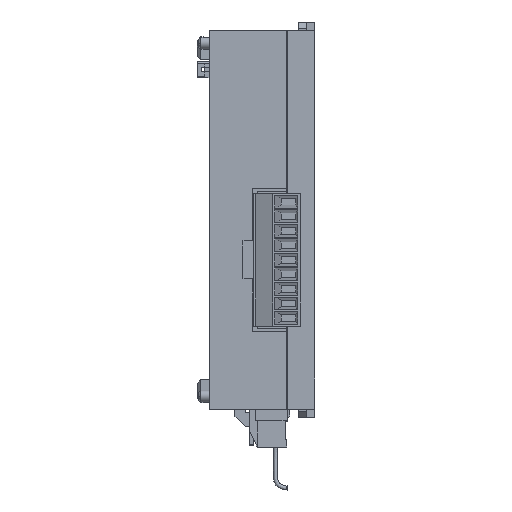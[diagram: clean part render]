
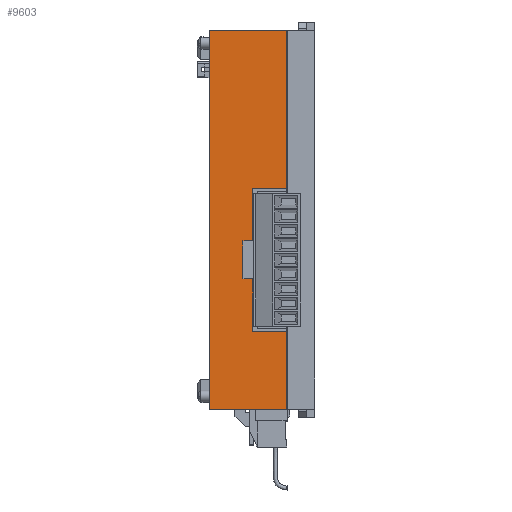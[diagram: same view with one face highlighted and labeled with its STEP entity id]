
A CAD part, top view. The second image highlights one B-rep face of the part: STEP entity #9603.
In plain terms, the highlighted planar face has unit normal (0, 0, 1).
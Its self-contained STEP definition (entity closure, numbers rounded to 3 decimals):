
#7814 = VERTEX_POINT ( 'NONE', #24300 ) ;
#7816 = EDGE_CURVE ( 'NONE', #7814, #7817, #24298, .T. ) ;
#7817 = VERTEX_POINT ( 'NONE', #24294 ) ;
#7969 = VERTEX_POINT ( 'NONE', #24686 ) ;
#7971 = EDGE_CURVE ( 'NONE', #7972, #7969, #24685, .T. ) ;
#7972 = VERTEX_POINT ( 'NONE', #24681 ) ;
#8944 = EDGE_CURVE ( 'NONE', #7969, #7817, #26698, .T. ) ;
#9435 = EDGE_CURVE ( 'NONE', #9436, #7972, #27570, .T. ) ;
#9436 = VERTEX_POINT ( 'NONE', #27566 ) ;
#9567 = ORIENTED_EDGE ( 'NONE', *, *, #9568, .F. ) ;
#9568 = EDGE_CURVE ( 'NONE', #9569, #9594, #27809, .T. ) ;
#9569 = VERTEX_POINT ( 'NONE', #27805 ) ;
#9570 = ORIENTED_EDGE ( 'NONE', *, *, #9571, .F. ) ;
#9571 = EDGE_CURVE ( 'NONE', #9436, #9569, #27803, .T. ) ;
#9572 = ORIENTED_EDGE ( 'NONE', *, *, #9435, .T. ) ;
#9573 = ORIENTED_EDGE ( 'NONE', *, *, #7971, .T. ) ;
#9574 = ORIENTED_EDGE ( 'NONE', *, *, #8944, .T. ) ;
#9575 = ORIENTED_EDGE ( 'NONE', *, *, #7816, .F. ) ;
#9580 = ORIENTED_EDGE ( 'NONE', *, *, #9581, .F. ) ;
#9581 = EDGE_CURVE ( 'NONE', #9582, #9607, #27838, .T. ) ;
#9582 = VERTEX_POINT ( 'NONE', #27834 ) ;
#9583 = ORIENTED_EDGE ( 'NONE', *, *, #9584, .F. ) ;
#9584 = EDGE_CURVE ( 'NONE', #9585, #9582, #27833, .T. ) ;
#9585 = VERTEX_POINT ( 'NONE', #27829 ) ;
#9586 = ORIENTED_EDGE ( 'NONE', *, *, #9587, .F. ) ;
#9587 = EDGE_CURVE ( 'NONE', #9588, #9585, #27828, .T. ) ;
#9588 = VERTEX_POINT ( 'NONE', #27824 ) ;
#9589 = ORIENTED_EDGE ( 'NONE', *, *, #9590, .F. ) ;
#9590 = EDGE_CURVE ( 'NONE', #9591, #9588, #27823, .T. ) ;
#9591 = VERTEX_POINT ( 'NONE', #27819 ) ;
#9592 = ORIENTED_EDGE ( 'NONE', *, *, #9593, .F. ) ;
#9593 = EDGE_CURVE ( 'NONE', #9594, #9591, #27818, .T. ) ;
#9594 = VERTEX_POINT ( 'NONE', #27814 ) ;
#9603 = ADVANCED_FACE ( 'NONE', ( #27853 ), #27894, .T. ) ;
#9604 = EDGE_LOOP ( 'NONE', ( #9605, #9580, #9583, #9586, #9589, #9592, #9567, #9570, #9572, #9573, #9574, #9575 ) ) ;
#9605 = ORIENTED_EDGE ( 'NONE', *, *, #9606, .F. ) ;
#9606 = EDGE_CURVE ( 'NONE', #9607, #7814, #27889, .T. ) ;
#9607 = VERTEX_POINT ( 'NONE', #27885 ) ;
#24294 = CARTESIAN_POINT ( 'NONE',  ( 5.8, -45., 60. ) ) ;
#24295 = DIRECTION ( 'NONE',  ( 0., -1., 0. ) ) ;
#24296 = VECTOR ( 'NONE', #24295, 1000. ) ;
#24297 = CARTESIAN_POINT ( 'NONE',  ( 5.8, 45., 60. ) ) ;
#24298 = LINE ( 'NONE', #24297, #24296 ) ;
#24300 = CARTESIAN_POINT ( 'NONE',  ( 5.8, -26.6, 60. ) ) ;
#24681 = CARTESIAN_POINT ( 'NONE',  ( -12.5, 45., 60. ) ) ;
#24682 = DIRECTION ( 'NONE',  ( 0., -1., 0. ) ) ;
#24683 = VECTOR ( 'NONE', #24682, 1000. ) ;
#24684 = CARTESIAN_POINT ( 'NONE',  ( -12.5, 45., 60. ) ) ;
#24685 = LINE ( 'NONE', #24684, #24683 ) ;
#24686 = CARTESIAN_POINT ( 'NONE',  ( -12.5, -45., 60. ) ) ;
#26695 = DIRECTION ( 'NONE',  ( 1., 0., 0. ) ) ;
#26696 = VECTOR ( 'NONE', #26695, 1000. ) ;
#26697 = CARTESIAN_POINT ( 'NONE',  ( -12.5, -45., 60. ) ) ;
#26698 = LINE ( 'NONE', #26697, #26696 ) ;
#27566 = CARTESIAN_POINT ( 'NONE',  ( 5.8, 45., 60. ) ) ;
#27567 = DIRECTION ( 'NONE',  ( -1., 0., 0. ) ) ;
#27568 = VECTOR ( 'NONE', #27567, 1000. ) ;
#27569 = CARTESIAN_POINT ( 'NONE',  ( -12.5, 45., 60. ) ) ;
#27570 = LINE ( 'NONE', #27569, #27568 ) ;
#27800 = DIRECTION ( 'NONE',  ( 0., -1., 0. ) ) ;
#27801 = VECTOR ( 'NONE', #27800, 1000. ) ;
#27802 = CARTESIAN_POINT ( 'NONE',  ( 5.8, 45., 60. ) ) ;
#27803 = LINE ( 'NONE', #27802, #27801 ) ;
#27805 = CARTESIAN_POINT ( 'NONE',  ( 5.8, 7.5, 60. ) ) ;
#27806 = DIRECTION ( 'NONE',  ( -1., 0., 0. ) ) ;
#27807 = VECTOR ( 'NONE', #27806, 1000. ) ;
#27808 = CARTESIAN_POINT ( 'NONE',  ( 5.8, 7.5, 60. ) ) ;
#27809 = LINE ( 'NONE', #27808, #27807 ) ;
#27814 = CARTESIAN_POINT ( 'NONE',  ( -2.28, 7.5, 60. ) ) ;
#27815 = DIRECTION ( 'NONE',  ( 0., -1., 0. ) ) ;
#27816 = VECTOR ( 'NONE', #27815, 1000. ) ;
#27817 = CARTESIAN_POINT ( 'NONE',  ( -2.28, 7.5, 60. ) ) ;
#27818 = LINE ( 'NONE', #27817, #27816 ) ;
#27819 = CARTESIAN_POINT ( 'NONE',  ( -2.28, -5.05, 60. ) ) ;
#27820 = DIRECTION ( 'NONE',  ( -1., 0., 0. ) ) ;
#27821 = VECTOR ( 'NONE', #27820, 1000. ) ;
#27822 = CARTESIAN_POINT ( 'NONE',  ( -2.28, -5.05, 60. ) ) ;
#27823 = LINE ( 'NONE', #27822, #27821 ) ;
#27824 = CARTESIAN_POINT ( 'NONE',  ( -4.6, -5.05, 60. ) ) ;
#27825 = DIRECTION ( 'NONE',  ( 0., -1., 0. ) ) ;
#27826 = VECTOR ( 'NONE', #27825, 1000. ) ;
#27827 = CARTESIAN_POINT ( 'NONE',  ( -4.6, -5.05, 60. ) ) ;
#27828 = LINE ( 'NONE', #27827, #27826 ) ;
#27829 = CARTESIAN_POINT ( 'NONE',  ( -4.6, -14.05, 60. ) ) ;
#27830 = DIRECTION ( 'NONE',  ( 1., 0., 0. ) ) ;
#27831 = VECTOR ( 'NONE', #27830, 1000. ) ;
#27832 = CARTESIAN_POINT ( 'NONE',  ( -4.6, -14.05, 60. ) ) ;
#27833 = LINE ( 'NONE', #27832, #27831 ) ;
#27834 = CARTESIAN_POINT ( 'NONE',  ( -2.28, -14.05, 60. ) ) ;
#27835 = DIRECTION ( 'NONE',  ( 0., -1., 0. ) ) ;
#27836 = VECTOR ( 'NONE', #27835, 1000. ) ;
#27837 = CARTESIAN_POINT ( 'NONE',  ( -2.28, -14.05, 60. ) ) ;
#27838 = LINE ( 'NONE', #27837, #27836 ) ;
#27853 = FACE_OUTER_BOUND ( 'NONE', #9604, .T. ) ;
#27885 = CARTESIAN_POINT ( 'NONE',  ( -2.28, -26.6, 60. ) ) ;
#27886 = DIRECTION ( 'NONE',  ( 1., 0., 0. ) ) ;
#27887 = VECTOR ( 'NONE', #27886, 1000. ) ;
#27888 = CARTESIAN_POINT ( 'NONE',  ( -2.28, -26.6, 60. ) ) ;
#27889 = LINE ( 'NONE', #27888, #27887 ) ;
#27890 = DIRECTION ( 'NONE',  ( 1., 0., 0. ) ) ;
#27891 = DIRECTION ( 'NONE',  ( 0., 0., 1. ) ) ;
#27892 = CARTESIAN_POINT ( 'NONE',  ( -12.5, -45., 60. ) ) ;
#27893 = AXIS2_PLACEMENT_3D ( 'NONE', #27892, #27891, #27890 ) ;
#27894 = PLANE ( 'NONE',  #27893 ) ;
